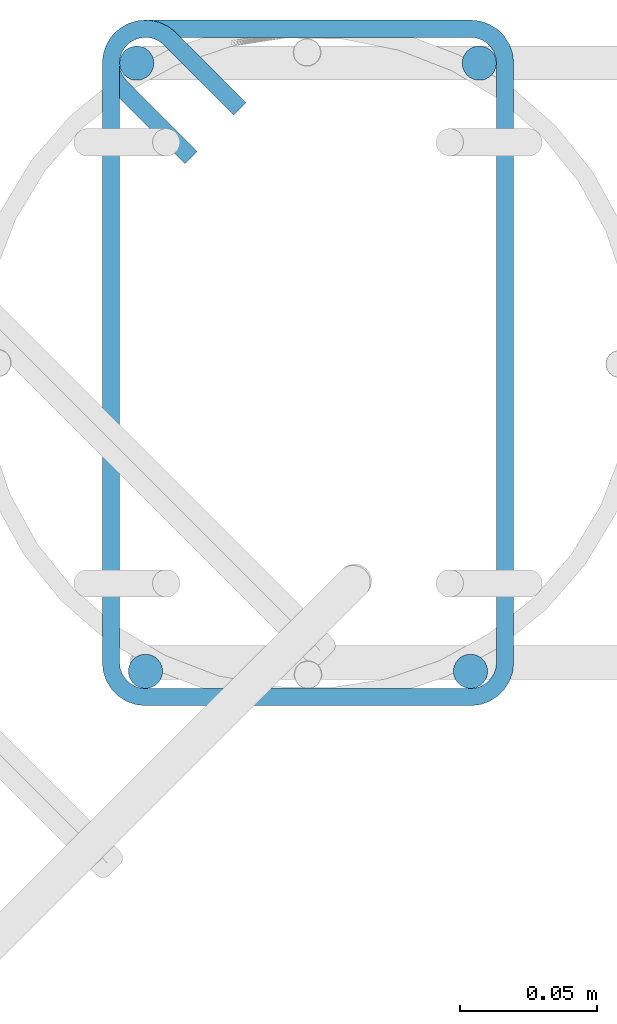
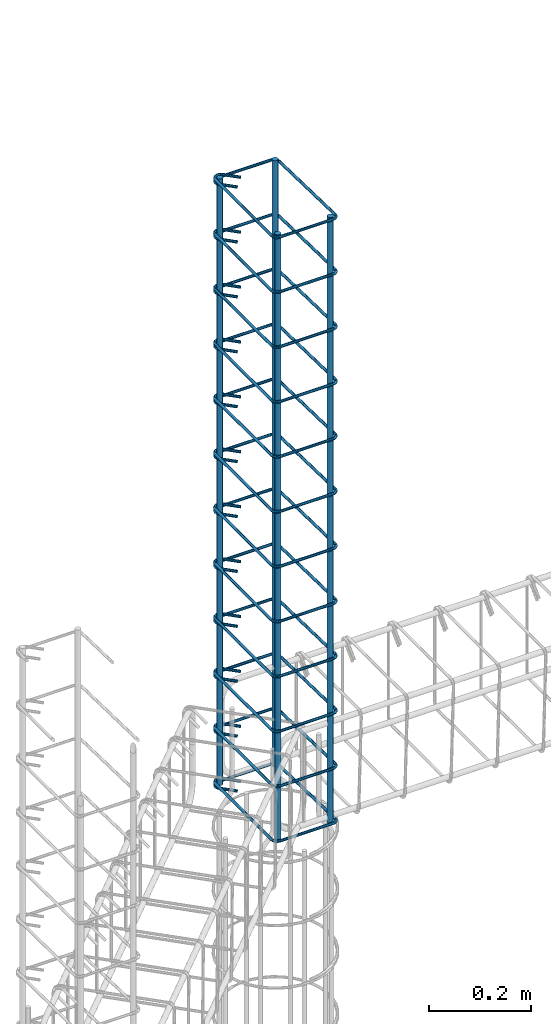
# One storey, part 1 of 14: 3 reinforcing bars.
"""IFC4 building model written with IfcOpenShell, lengths in centimetres."""

import ifcopenshell
import ifcopenshell.guid

model = None  # the IFC model being written
_history = None  # IfcOwnerHistory: only IFC2X3 demands one
_inside = {}  # id of a spatial element -> (the spatial element, [elements in it])
_under = {}  # id of a project, library or spatial element -> (it, [spatial elements below it])
_declared = {}  # id of a project -> (the project, [libraries it declares])
_typed = {}  # id of a type object -> (the type object, [elements of that type])
_made_of = {}  # id of a material, layer set ... -> (it, [elements and type objects made of it])


def new_model(schema):
    """Start an empty IFC model of exactly this schema.

    Asked for "IFC4X3", IfcOpenShell would pick the latest addendum, in which some entities
    have other attributes; the version numbers below select the first issue.
    IFC2X3 requires an IfcOwnerHistory on every rooted entity: one is made here for all.
    """
    global model, _history
    if schema == "IFC4X3":
        model = ifcopenshell.file(schema_version=(4, 3, 0, 0))
    else:
        model = ifcopenshell.file(schema=schema)
    _inside.clear()
    _under.clear()
    _declared.clear()
    _typed.clear()
    _made_of.clear()
    _history = None
    if model.schema == "IFC2X3":
        org = make("IfcOrganization", Name="unknown")
        user = make(
            "IfcPersonAndOrganization",
            ThePerson=make("IfcPerson", FamilyName="unknown"),
            TheOrganization=org,
        )
        app = make(
            "IfcApplication",
            ApplicationDeveloper=org,
            Version="unknown",
            ApplicationFullName="unknown",
            ApplicationIdentifier="unknown",
        )
        _history = make(
            "IfcOwnerHistory",
            OwningUser=user,
            OwningApplication=app,
            ChangeAction="ADDED",
            CreationDate=0,
        )
    return model


def make(cls, **values):
    """One entity of the class cls with the attributes given. An attribute that is None is left unset."""
    return model.create_entity(
        cls, **{name: value for name, value in values.items() if value is not None}
    )


def entity(cls, *values):
    """Any entity or typed value of the class cls, its attributes in the order of the schema. None: left unset."""
    e = model.create_entity(cls)
    for i, value in enumerate(values):
        if value is not None:
            e[i] = value
    return e


def rooted(cls, **values):
    """An entity with a GlobalId (a new one), such as an element, a storey or a relation."""
    return make(cls, GlobalId=ifcopenshell.guid.new(), OwnerHistory=_history, **values)


def si_unit(unit_type, name, prefix=None):
    """IfcSIUnit, for example si_unit("LENGTHUNIT", "METRE", prefix="MILLI")."""
    return make("IfcSIUnit", UnitType=unit_type, Prefix=prefix, Name=name)


def converted_unit(unit_type, name, factor, base, dimensions=None, offset=None):
    """IfcConversionBasedUnit, such as the inch: factor (a typed value) times the base unit."""
    return make(
        "IfcConversionBasedUnit"
        if offset is None
        else "IfcConversionBasedUnitWithOffset",
        ConversionOffset=offset,
        Dimensions=None
        if dimensions is None
        else entity("IfcDimensionalExponents", *dimensions),
        UnitType=unit_type,
        Name=name,
        ConversionFactor=make(
            "IfcMeasureWithUnit", ValueComponent=factor, UnitComponent=base
        ),
    )


def derived_unit(unit_type, elements):
    """IfcDerivedUnit: a product of units, each with its exponent."""
    return make(
        "IfcDerivedUnit",
        Elements=[
            make("IfcDerivedUnitElement", Unit=unit, Exponent=power)
            for unit, power in elements
        ],
        UnitType=unit_type,
    )


def assignment(units):
    """IfcUnitAssignment: the units of a project."""
    return None if units is None else make("IfcUnitAssignment", Units=units)


def point(xyz):
    """IfcCartesianPoint."""
    return None if xyz is None else make("IfcCartesianPoint", Coordinates=xyz)


def direction(xyz):
    """IfcDirection."""
    return None if xyz is None else make("IfcDirection", DirectionRatios=xyz)


def frame(location, z_axis=None, x_axis=None):
    """IfcAxis2Placement3D, a coordinate frame: its origin and axes. An axis left out is left unset."""
    return make(
        "IfcAxis2Placement3D",
        Location=point(location),
        Axis=direction(z_axis),
        RefDirection=direction(x_axis),
    )


def origin():
    """The frame at (0, 0, 0) with its axes left unset."""
    return frame((0.0, 0.0, 0.0))


def place(relative_to, where):
    """IfcLocalPlacement: puts the frame where relative to a parent placement (None: the world)."""
    return make(
        "IfcLocalPlacement", PlacementRelTo=relative_to, RelativePlacement=where
    )


def context(
    kind, dimensions, precision=None, world=None, true_north=None, identifier=None
):
    """IfcGeometricRepresentationContext, for example the 3D "Model" context."""
    return make(
        "IfcGeometricRepresentationContext",
        ContextIdentifier=identifier,
        ContextType=kind,
        CoordinateSpaceDimension=dimensions,
        Precision=precision,
        WorldCoordinateSystem=world,
        TrueNorth=true_north,
    )


def subcontext(parent, identifier, kind, view, scale=None):
    """IfcGeometricRepresentationSubContext, for example "Body" below "Model"."""
    return make(
        "IfcGeometricRepresentationSubContext",
        ContextIdentifier=identifier,
        ContextType=kind,
        ParentContext=parent,
        TargetScale=scale,
        TargetView=view,
    )


def project(units=None, contexts=None):
    """IfcProject with its units and contexts."""
    return rooted(
        "IfcProject",
        Name="project",
        RepresentationContexts=contexts,
        UnitsInContext=assignment(units),
    )


def spatial(cls, under=None, at=None, **own):
    """A site, building, storey or space (cls), placed at a placement, below another one or the project."""
    s = rooted(cls, ObjectPlacement=at, **own)
    if under is not None:
        _under.setdefault(under.id(), (under, []))[1].append(s)
    return s


def shape(context_of_items, identifier, shape_type, items):
    """IfcShapeRepresentation: the items that make up one representation, for example the "Body"."""
    return make(
        "IfcShapeRepresentation",
        ContextOfItems=context_of_items,
        RepresentationIdentifier=identifier,
        RepresentationType=shape_type,
        Items=items,
    )


def made_of(thing, what):
    """Note that an element or type object is made of a material, layer set ...; save() writes the relation."""
    if what is not None:
        _made_of.setdefault(what.id(), (what, []))[1].append(thing)
    return thing


def type_object(cls, material=None, **own):
    """A type object (cls), such as IfcWallType, which elements share."""
    return made_of(rooted(cls, **own), material)


def element(
    cls,
    number,
    at=None,
    inside=None,
    cuts=None,
    type_object=None,
    material=None,
    context=None,
    identifier="Body",
    shape_type=None,
    held_by="IfcProductDefinitionShape",
    body=None,
    shapes=None,
    **own,
):
    """One element of the class cls, such as IfcWall. Its Tag is "e" and its number.

    at: its placement. inside: the storey or other place that contains it. cuts: it is an
    opening in that element (IfcRelVoidsElement). A single representation is given by context,
    identifier, shape_type and body (its items); several are given by shapes. held_by: the class
    of the entity that holds the representations. save() writes the other relations.
    """
    e = rooted(cls, Tag="e%d" % number, ObjectPlacement=at, **own)
    if body is not None:
        shapes = [shape(context, identifier, shape_type, body)]
    if shapes is not None:
        e.Representation = make(held_by, Representations=shapes)
    if inside is not None:
        _inside.setdefault(inside.id(), (inside, []))[1].append(e)
    if cuts is not None:
        rooted(
            "IfcRelVoidsElement", RelatingBuildingElement=cuts, RelatedOpeningElement=e
        )
    if type_object is not None:
        _typed.setdefault(type_object.id(), (type_object, []))[1].append(e)
    return made_of(e, material)


def aggregate(whole, parts):
    """IfcRelAggregates: a whole, such as a stair, and the parts it consists of."""
    return rooted("IfcRelAggregates", RelatingObject=whole, RelatedObjects=parts)


def save(model, path):
    """Write the relations noted so far, then the file.

    IfcRelAggregates (storeys below a building ...), IfcRelContainedInSpatialStructure (elements
    in a storey), IfcRelDefinesByType, IfcRelAssociatesMaterial and IfcRelDeclares: one each for
    every whole, place, type object, material and project.
    """
    for whole, parts in _under.values():
        aggregate(whole, parts)
    for where, things in _inside.values():
        rooted(
            "IfcRelContainedInSpatialStructure",
            RelatedElements=things,
            RelatingStructure=where,
        )
    for kind, things in _typed.values():
        rooted("IfcRelDefinesByType", RelatedObjects=things, RelatingType=kind)
    for what, things in _made_of.values():
        rooted("IfcRelAssociatesMaterial", RelatedObjects=things, RelatingMaterial=what)
    for by, libraries in _declared.values():
        rooted("IfcRelDeclares", RelatingContext=by, RelatedDefinitions=libraries)
    model.write(path)


model = new_model("IFC4")

# Units and contexts
model_context = context("Model", 3, precision=0.001, world=origin(), true_north=direction((6.123233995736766e-17, 1.0)))
body_context = subcontext(model_context, "Body", "Model", "MODEL_VIEW")
ifc_project = project(units=[si_unit("LENGTHUNIT", "METRE", prefix="CENTI"), si_unit("AREAUNIT", "SQUARE_METRE"), converted_unit("PLANEANGLEUNIT", "DEGREE", entity("IfcPlaneAngleMeasure", 0.017453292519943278), si_unit("PLANEANGLEUNIT", "RADIAN"), dimensions=[0, 0, 0, 0, 0, 0, 0]), si_unit("VOLUMEUNIT", "CUBIC_METRE"), derived_unit("THERMALTRANSMITTANCEUNIT", [(si_unit("MASSUNIT", "GRAM", prefix="KILO"), 1), (si_unit("THERMODYNAMICTEMPERATUREUNIT", "KELVIN"), -1), (si_unit("TIMEUNIT", "SECOND"), -3)])], contexts=[model_context])

# Site, building, storey
site_placement = place(None, origin())
site = spatial("IfcSite", under=ifc_project, at=site_placement, Name="Default", CompositionType="ELEMENT")
building_placement = place(site_placement, origin())
building = spatial("IfcBuilding", under=site, at=building_placement, Name="CONTENÇÃO DE ARQUIBANCADA - GINÁSIO PADRÃO", CompositionType="ELEMENT")
storey_placement = place(building_placement, frame((0.0, 0.0, -100.0)))
storey = spatial("IfcBuildingStorey", under=building, at=storey_placement, Name="Nível 3", CompositionType="ELEMENT", Elevation=-100.0)

# Reinforcing bars
reinforcing_bar_type_1 = type_object("IfcReinforcingBarType", Name="Barra do vergalhão:12.5 CA-50", PredefinedType="NOTDEFINED")
reinforcing_bar_1_placement = place(storey_placement, origin())
element("IfcReinforcingBar", 1, at=reinforcing_bar_1_placement, inside=storey, type_object=reinforcing_bar_type_1, Name="Barra do vergalhão:12.5 CA-50 : Forma 01", ObjectType="Barra do vergalhão:12.5 CA-50", context=body_context, shape_type="AdvancedSweptSolid", body=[
    entity("IfcSweptDiskSolid", entity("IfcIndexedPolyCurve", entity("IfcCartesianPointList3D", [[20.700316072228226, 259.9991752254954, 72.5], [20.700316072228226, 259.9991752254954, 217.5]]), None, False), 0.625, None, 0.0, 1.0),
    entity("IfcSweptDiskSolid", entity("IfcIndexedPolyCurve", entity("IfcCartesianPointList3D", [[8.210316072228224, 259.9991752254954, 72.5], [8.210316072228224, 259.9991752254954, 217.5]]), None, False), 0.625, None, 0.0, 1.0),
])
reinforcing_bar_2_placement = place(storey_placement, origin())
element("IfcReinforcingBar", 2, at=reinforcing_bar_2_placement, inside=storey, type_object=reinforcing_bar_type_1, Name="Barra do vergalhão:12.5 CA-50 : Forma 01", ObjectType="Barra do vergalhão:12.5 CA-50", context=body_context, shape_type="AdvancedSweptSolid", body=[
    entity("IfcSweptDiskSolid", entity("IfcIndexedPolyCurve", entity("IfcCartesianPointList3D", [[8.530316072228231, 237.82917522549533, 72.5], [8.530316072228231, 237.82917522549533, 217.5]]), None, False), 0.625, None, 0.0, 1.0),
    entity("IfcSweptDiskSolid", entity("IfcIndexedPolyCurve", entity("IfcCartesianPointList3D", [[20.38031607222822, 237.82917522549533, 72.5], [20.38031607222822, 237.82917522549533, 217.5]]), None, False), 0.625, None, 0.0, 1.0),
])
reinforcing_bar_type_2 = type_object("IfcReinforcingBarType", Name="Barra do vergalhão:6.3 CA-50", PredefinedType="NOTDEFINED")
reinforcing_bar_3_placement = place(storey_placement, origin())
element("IfcReinforcingBar", 3, at=reinforcing_bar_3_placement, inside=storey, type_object=reinforcing_bar_type_2, Name="Barra do vergalhão:6.3 CA-50 : Forma 22", ObjectType="Barra do vergalhão:6.3 CA-50", context=body_context, shape_type="AdvancedSweptSolid", body=[
    entity("IfcSweptDiskSolid", entity("IfcIndexedPolyCurve", entity("IfcCartesianPointList3D", [[11.971235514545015, 258.3401648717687, 72.815], [9.421270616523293, 260.8901297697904, 72.815], [8.048134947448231, 261.16326343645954, 72.815], [7.270316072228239, 259.9991752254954, 72.815], [7.27031607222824, 238.14917522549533, 72.815], [7.6393615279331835, 237.2582206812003, 72.815], [8.530316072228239, 236.88917522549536, 72.815], [20.380316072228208, 236.88917522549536, 72.815], [21.271270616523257, 237.25809742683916, 72.80546282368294], [21.640316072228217, 238.148754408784, 72.78243804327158], [21.640316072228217, 259.99959604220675, 72.21756195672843], [21.27127061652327, 260.89025302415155, 72.19453717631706], [20.38031607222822, 261.25917522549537, 72.185], [8.530316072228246, 261.2591752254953, 72.185], [7.3662278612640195, 260.48135635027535, 72.185], [7.639361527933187, 259.1082206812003, 72.185], [10.189326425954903, 256.5582557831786, 72.185]]), [entity("IfcLineIndex", [1, 2]), entity("IfcArcIndex", [2, 3, 4]), entity("IfcLineIndex", [4, 5]), entity("IfcArcIndex", [5, 6, 7]), entity("IfcLineIndex", [7, 8]), entity("IfcArcIndex", [8, 9, 10]), entity("IfcLineIndex", [10, 11]), entity("IfcArcIndex", [11, 12, 13]), entity("IfcLineIndex", [13, 14]), entity("IfcArcIndex", [14, 15, 16]), entity("IfcLineIndex", [16, 17])], False), 0.31499999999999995, None, 0.0, 546.0000000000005),
    entity("IfcSweptDiskSolid", entity("IfcIndexedPolyCurve", entity("IfcCartesianPointList3D", [[11.971235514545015, 258.3401648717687, 85.93954545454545], [9.421270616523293, 260.8901297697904, 85.93954545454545], [8.048134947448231, 261.16326343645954, 85.93954545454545], [7.270316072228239, 259.9991752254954, 85.93954545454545], [7.27031607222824, 238.14917522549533, 85.93954545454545], [7.6393615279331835, 237.2582206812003, 85.93954545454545], [8.530316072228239, 236.88917522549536, 85.93954545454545], [20.380316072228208, 236.88917522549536, 85.93954545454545], [21.271270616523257, 237.25809742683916, 85.93000827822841], [21.640316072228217, 238.148754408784, 85.90698349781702], [21.640316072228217, 259.99959604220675, 85.34210741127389], [21.27127061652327, 260.89025302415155, 85.31908263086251], [20.38031607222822, 261.25917522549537, 85.30954545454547], [8.530316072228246, 261.2591752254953, 85.30954545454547], [7.3662278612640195, 260.48135635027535, 85.30954545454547], [7.639361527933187, 259.1082206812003, 85.30954545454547], [10.189326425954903, 256.5582557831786, 85.30954545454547]]), [entity("IfcLineIndex", [1, 2]), entity("IfcArcIndex", [2, 3, 4]), entity("IfcLineIndex", [4, 5]), entity("IfcArcIndex", [5, 6, 7]), entity("IfcLineIndex", [7, 8]), entity("IfcArcIndex", [8, 9, 10]), entity("IfcLineIndex", [10, 11]), entity("IfcArcIndex", [11, 12, 13]), entity("IfcLineIndex", [13, 14]), entity("IfcArcIndex", [14, 15, 16]), entity("IfcLineIndex", [16, 17])], False), 0.31499999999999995, None, 0.0, 546.0000000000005),
    entity("IfcSweptDiskSolid", entity("IfcIndexedPolyCurve", entity("IfcCartesianPointList3D", [[11.971235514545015, 258.3401648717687, 99.06409090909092], [9.421270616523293, 260.8901297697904, 99.06409090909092], [8.048134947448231, 261.16326343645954, 99.06409090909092], [7.270316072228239, 259.9991752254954, 99.06409090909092], [7.27031607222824, 238.14917522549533, 99.06409090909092], [7.6393615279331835, 237.2582206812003, 99.06409090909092], [8.530316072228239, 236.88917522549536, 99.06409090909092], [20.380316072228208, 236.88917522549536, 99.06409090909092], [21.271270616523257, 237.25809742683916, 99.05455373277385], [21.640316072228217, 238.148754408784, 99.03152895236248], [21.640316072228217, 259.99959604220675, 98.46665286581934], [21.27127061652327, 260.89025302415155, 98.44362808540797], [20.38031607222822, 261.25917522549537, 98.43409090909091], [8.530316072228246, 261.2591752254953, 98.43409090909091], [7.3662278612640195, 260.48135635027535, 98.43409090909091], [7.639361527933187, 259.1082206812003, 98.43409090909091], [10.189326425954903, 256.5582557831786, 98.43409090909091]]), [entity("IfcLineIndex", [1, 2]), entity("IfcArcIndex", [2, 3, 4]), entity("IfcLineIndex", [4, 5]), entity("IfcArcIndex", [5, 6, 7]), entity("IfcLineIndex", [7, 8]), entity("IfcArcIndex", [8, 9, 10]), entity("IfcLineIndex", [10, 11]), entity("IfcArcIndex", [11, 12, 13]), entity("IfcLineIndex", [13, 14]), entity("IfcArcIndex", [14, 15, 16]), entity("IfcLineIndex", [16, 17])], False), 0.31499999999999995, None, 0.0, 546.0000000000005),
    entity("IfcSweptDiskSolid", entity("IfcIndexedPolyCurve", entity("IfcCartesianPointList3D", [[11.971235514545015, 258.3401648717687, 112.18863636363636], [9.421270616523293, 260.8901297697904, 112.18863636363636], [8.048134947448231, 261.16326343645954, 112.18863636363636], [7.270316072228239, 259.9991752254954, 112.18863636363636], [7.27031607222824, 238.14917522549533, 112.18863636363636], [7.6393615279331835, 237.2582206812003, 112.18863636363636], [8.530316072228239, 236.88917522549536, 112.18863636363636], [20.380316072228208, 236.88917522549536, 112.18863636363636], [21.271270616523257, 237.25809742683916, 112.17909918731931], [21.640316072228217, 238.148754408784, 112.15607440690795], [21.640316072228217, 259.99959604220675, 111.5911983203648], [21.27127061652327, 260.89025302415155, 111.56817353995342], [20.38031607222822, 261.25917522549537, 111.55863636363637], [8.530316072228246, 261.2591752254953, 111.55863636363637], [7.3662278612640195, 260.48135635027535, 111.55863636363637], [7.639361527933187, 259.1082206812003, 111.55863636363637], [10.189326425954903, 256.5582557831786, 111.55863636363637]]), [entity("IfcLineIndex", [1, 2]), entity("IfcArcIndex", [2, 3, 4]), entity("IfcLineIndex", [4, 5]), entity("IfcArcIndex", [5, 6, 7]), entity("IfcLineIndex", [7, 8]), entity("IfcArcIndex", [8, 9, 10]), entity("IfcLineIndex", [10, 11]), entity("IfcArcIndex", [11, 12, 13]), entity("IfcLineIndex", [13, 14]), entity("IfcArcIndex", [14, 15, 16]), entity("IfcLineIndex", [16, 17])], False), 0.31499999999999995, None, 0.0, 546.0000000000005),
    entity("IfcSweptDiskSolid", entity("IfcIndexedPolyCurve", entity("IfcCartesianPointList3D", [[11.971235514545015, 258.3401648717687, 125.31318181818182], [9.421270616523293, 260.8901297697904, 125.31318181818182], [8.048134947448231, 261.16326343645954, 125.31318181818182], [7.270316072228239, 259.9991752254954, 125.31318181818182], [7.27031607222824, 238.14917522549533, 125.31318181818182], [7.6393615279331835, 237.2582206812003, 125.31318181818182], [8.530316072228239, 236.88917522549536, 125.31318181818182], [20.380316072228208, 236.88917522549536, 125.31318181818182], [21.271270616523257, 237.25809742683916, 125.30364464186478], [21.640316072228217, 238.148754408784, 125.28061986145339], [21.640316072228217, 259.99959604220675, 124.71574377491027], [21.27127061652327, 260.89025302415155, 124.69271899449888], [20.38031607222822, 261.25917522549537, 124.68318181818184], [8.530316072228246, 261.2591752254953, 124.68318181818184], [7.3662278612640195, 260.48135635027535, 124.68318181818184], [7.639361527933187, 259.1082206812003, 124.68318181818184], [10.189326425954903, 256.5582557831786, 124.68318181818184]]), [entity("IfcLineIndex", [1, 2]), entity("IfcArcIndex", [2, 3, 4]), entity("IfcLineIndex", [4, 5]), entity("IfcArcIndex", [5, 6, 7]), entity("IfcLineIndex", [7, 8]), entity("IfcArcIndex", [8, 9, 10]), entity("IfcLineIndex", [10, 11]), entity("IfcArcIndex", [11, 12, 13]), entity("IfcLineIndex", [13, 14]), entity("IfcArcIndex", [14, 15, 16]), entity("IfcLineIndex", [16, 17])], False), 0.31499999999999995, None, 0.0, 546.0000000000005),
    entity("IfcSweptDiskSolid", entity("IfcIndexedPolyCurve", entity("IfcCartesianPointList3D", [[11.971235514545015, 258.3401648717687, 138.43772727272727], [9.421270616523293, 260.8901297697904, 138.43772727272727], [8.048134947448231, 261.16326343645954, 138.43772727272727], [7.270316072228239, 259.9991752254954, 138.43772727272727], [7.27031607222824, 238.14917522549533, 138.43772727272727], [7.6393615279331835, 237.2582206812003, 138.43772727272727], [8.530316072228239, 236.88917522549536, 138.43772727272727], [20.380316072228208, 236.88917522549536, 138.43772727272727], [21.271270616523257, 237.25809742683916, 138.42819009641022], [21.640316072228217, 238.148754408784, 138.40516531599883], [21.640316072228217, 259.99959604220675, 137.84028922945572], [21.27127061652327, 260.89025302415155, 137.81726444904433], [20.38031607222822, 261.25917522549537, 137.80772727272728], [8.530316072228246, 261.2591752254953, 137.80772727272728], [7.3662278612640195, 260.48135635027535, 137.80772727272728], [7.639361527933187, 259.1082206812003, 137.80772727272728], [10.189326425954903, 256.5582557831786, 137.80772727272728]]), [entity("IfcLineIndex", [1, 2]), entity("IfcArcIndex", [2, 3, 4]), entity("IfcLineIndex", [4, 5]), entity("IfcArcIndex", [5, 6, 7]), entity("IfcLineIndex", [7, 8]), entity("IfcArcIndex", [8, 9, 10]), entity("IfcLineIndex", [10, 11]), entity("IfcArcIndex", [11, 12, 13]), entity("IfcLineIndex", [13, 14]), entity("IfcArcIndex", [14, 15, 16]), entity("IfcLineIndex", [16, 17])], False), 0.31499999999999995, None, 0.0, 546.0000000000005),
    entity("IfcSweptDiskSolid", entity("IfcIndexedPolyCurve", entity("IfcCartesianPointList3D", [[11.971235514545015, 258.3401648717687, 151.56227272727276], [9.421270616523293, 260.8901297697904, 151.56227272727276], [8.048134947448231, 261.16326343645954, 151.56227272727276], [7.270316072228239, 259.9991752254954, 151.56227272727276], [7.27031607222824, 238.14917522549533, 151.56227272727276], [7.6393615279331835, 237.2582206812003, 151.56227272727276], [8.530316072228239, 236.88917522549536, 151.56227272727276], [20.380316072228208, 236.88917522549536, 151.56227272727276], [21.271270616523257, 237.25809742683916, 151.55273555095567], [21.640316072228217, 238.148754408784, 151.5297107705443], [21.640316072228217, 259.99959604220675, 150.96483468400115], [21.27127061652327, 260.89025302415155, 150.94180990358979], [20.38031607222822, 261.25917522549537, 150.93227272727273], [8.530316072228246, 261.2591752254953, 150.93227272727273], [7.3662278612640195, 260.48135635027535, 150.93227272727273], [7.639361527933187, 259.1082206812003, 150.93227272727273], [10.189326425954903, 256.5582557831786, 150.93227272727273]]), [entity("IfcLineIndex", [1, 2]), entity("IfcArcIndex", [2, 3, 4]), entity("IfcLineIndex", [4, 5]), entity("IfcArcIndex", [5, 6, 7]), entity("IfcLineIndex", [7, 8]), entity("IfcArcIndex", [8, 9, 10]), entity("IfcLineIndex", [10, 11]), entity("IfcArcIndex", [11, 12, 13]), entity("IfcLineIndex", [13, 14]), entity("IfcArcIndex", [14, 15, 16]), entity("IfcLineIndex", [16, 17])], False), 0.31499999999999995, None, 0.0, 546.0000000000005),
    entity("IfcSweptDiskSolid", entity("IfcIndexedPolyCurve", entity("IfcCartesianPointList3D", [[11.971235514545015, 258.3401648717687, 164.68681818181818], [9.421270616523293, 260.8901297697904, 164.68681818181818], [8.048134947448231, 261.16326343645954, 164.68681818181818], [7.270316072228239, 259.9991752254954, 164.68681818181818], [7.27031607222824, 238.14917522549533, 164.68681818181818], [7.6393615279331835, 237.2582206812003, 164.68681818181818], [8.530316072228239, 236.88917522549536, 164.68681818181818], [20.380316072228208, 236.88917522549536, 164.68681818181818], [21.271270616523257, 237.25809742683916, 164.67728100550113], [21.640316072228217, 238.148754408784, 164.65425622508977], [21.640316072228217, 259.99959604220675, 164.0893801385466], [21.27127061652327, 260.89025302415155, 164.06635535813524], [20.38031607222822, 261.25917522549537, 164.0568181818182], [8.530316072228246, 261.2591752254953, 164.0568181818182], [7.3662278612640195, 260.48135635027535, 164.0568181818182], [7.639361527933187, 259.1082206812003, 164.0568181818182], [10.189326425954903, 256.5582557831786, 164.0568181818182]]), [entity("IfcLineIndex", [1, 2]), entity("IfcArcIndex", [2, 3, 4]), entity("IfcLineIndex", [4, 5]), entity("IfcArcIndex", [5, 6, 7]), entity("IfcLineIndex", [7, 8]), entity("IfcArcIndex", [8, 9, 10]), entity("IfcLineIndex", [10, 11]), entity("IfcArcIndex", [11, 12, 13]), entity("IfcLineIndex", [13, 14]), entity("IfcArcIndex", [14, 15, 16]), entity("IfcLineIndex", [16, 17])], False), 0.31499999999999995, None, 0.0, 546.0000000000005),
    entity("IfcSweptDiskSolid", entity("IfcIndexedPolyCurve", entity("IfcCartesianPointList3D", [[11.971235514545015, 258.3401648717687, 177.81136363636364], [9.421270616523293, 260.8901297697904, 177.81136363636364], [8.048134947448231, 261.16326343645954, 177.81136363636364], [7.270316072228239, 259.9991752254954, 177.81136363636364], [7.27031607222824, 238.14917522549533, 177.81136363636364], [7.6393615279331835, 237.2582206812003, 177.81136363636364], [8.530316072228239, 236.88917522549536, 177.81136363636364], [20.380316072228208, 236.88917522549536, 177.81136363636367], [21.271270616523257, 237.25809742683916, 177.8018264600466], [21.640316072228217, 238.148754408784, 177.77880167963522], [21.640316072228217, 259.99959604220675, 177.21392559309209], [21.27127061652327, 260.89025302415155, 177.1909008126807], [20.38031607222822, 261.25917522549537, 177.18136363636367], [8.530316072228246, 261.2591752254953, 177.18136363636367], [7.3662278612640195, 260.48135635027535, 177.18136363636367], [7.639361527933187, 259.1082206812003, 177.18136363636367], [10.189326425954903, 256.5582557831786, 177.18136363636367]]), [entity("IfcLineIndex", [1, 2]), entity("IfcArcIndex", [2, 3, 4]), entity("IfcLineIndex", [4, 5]), entity("IfcArcIndex", [5, 6, 7]), entity("IfcLineIndex", [7, 8]), entity("IfcArcIndex", [8, 9, 10]), entity("IfcLineIndex", [10, 11]), entity("IfcArcIndex", [11, 12, 13]), entity("IfcLineIndex", [13, 14]), entity("IfcArcIndex", [14, 15, 16]), entity("IfcLineIndex", [16, 17])], False), 0.31499999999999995, None, 0.0, 546.0000000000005),
    entity("IfcSweptDiskSolid", entity("IfcIndexedPolyCurve", entity("IfcCartesianPointList3D", [[11.971235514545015, 258.3401648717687, 190.93590909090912], [9.421270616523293, 260.8901297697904, 190.93590909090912], [8.048134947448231, 261.16326343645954, 190.93590909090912], [7.270316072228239, 259.9991752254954, 190.93590909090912], [7.27031607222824, 238.14917522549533, 190.93590909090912], [7.6393615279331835, 237.2582206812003, 190.93590909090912], [8.530316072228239, 236.88917522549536, 190.93590909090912], [20.380316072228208, 236.88917522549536, 190.93590909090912], [21.271270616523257, 237.25809742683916, 190.92637191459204], [21.640316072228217, 238.148754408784, 190.90334713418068], [21.640316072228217, 259.99959604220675, 190.33847104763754], [21.27127061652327, 260.89025302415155, 190.31544626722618], [20.38031607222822, 261.25917522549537, 190.30590909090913], [8.530316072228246, 261.2591752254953, 190.30590909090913], [7.3662278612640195, 260.48135635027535, 190.30590909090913], [7.639361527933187, 259.1082206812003, 190.30590909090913], [10.189326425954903, 256.5582557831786, 190.30590909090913]]), [entity("IfcLineIndex", [1, 2]), entity("IfcArcIndex", [2, 3, 4]), entity("IfcLineIndex", [4, 5]), entity("IfcArcIndex", [5, 6, 7]), entity("IfcLineIndex", [7, 8]), entity("IfcArcIndex", [8, 9, 10]), entity("IfcLineIndex", [10, 11]), entity("IfcArcIndex", [11, 12, 13]), entity("IfcLineIndex", [13, 14]), entity("IfcArcIndex", [14, 15, 16]), entity("IfcLineIndex", [16, 17])], False), 0.31499999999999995, None, 0.0, 546.0000000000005),
    entity("IfcSweptDiskSolid", entity("IfcIndexedPolyCurve", entity("IfcCartesianPointList3D", [[11.971235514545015, 258.3401648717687, 204.06045454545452], [9.421270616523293, 260.8901297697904, 204.06045454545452], [8.048134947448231, 261.16326343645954, 204.06045454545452], [7.270316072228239, 259.9991752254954, 204.06045454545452], [7.27031607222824, 238.14917522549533, 204.06045454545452], [7.6393615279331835, 237.2582206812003, 204.06045454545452], [8.530316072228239, 236.88917522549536, 204.06045454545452], [20.380316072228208, 236.88917522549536, 204.06045454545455], [21.271270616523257, 237.25809742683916, 204.0509173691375], [21.640316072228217, 238.148754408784, 204.02789258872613], [21.640316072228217, 259.99959604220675, 203.46301650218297], [21.27127061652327, 260.89025302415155, 203.43999172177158], [20.38031607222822, 261.25917522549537, 203.43045454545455], [8.530316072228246, 261.2591752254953, 203.43045454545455], [7.3662278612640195, 260.48135635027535, 203.43045454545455], [7.639361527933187, 259.1082206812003, 203.43045454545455], [10.189326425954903, 256.5582557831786, 203.43045454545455]]), [entity("IfcLineIndex", [1, 2]), entity("IfcArcIndex", [2, 3, 4]), entity("IfcLineIndex", [4, 5]), entity("IfcArcIndex", [5, 6, 7]), entity("IfcLineIndex", [7, 8]), entity("IfcArcIndex", [8, 9, 10]), entity("IfcLineIndex", [10, 11]), entity("IfcArcIndex", [11, 12, 13]), entity("IfcLineIndex", [13, 14]), entity("IfcArcIndex", [14, 15, 16]), entity("IfcLineIndex", [16, 17])], False), 0.31499999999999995, None, 0.0, 546.0000000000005),
    entity("IfcSweptDiskSolid", entity("IfcIndexedPolyCurve", entity("IfcCartesianPointList3D", [[11.971235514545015, 258.3401648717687, 217.185], [9.421270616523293, 260.8901297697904, 217.185], [8.048134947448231, 261.16326343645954, 217.185], [7.270316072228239, 259.9991752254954, 217.185], [7.27031607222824, 238.14917522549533, 217.185], [7.6393615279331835, 237.2582206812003, 217.185], [8.530316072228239, 236.88917522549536, 217.185], [20.380316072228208, 236.88917522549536, 217.18500000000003], [21.271270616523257, 237.25809742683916, 217.17546282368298], [21.640316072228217, 238.148754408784, 217.1524380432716], [21.640316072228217, 259.99959604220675, 216.58756195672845], [21.27127061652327, 260.89025302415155, 216.56453717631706], [20.38031607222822, 261.25917522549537, 216.55500000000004], [8.530316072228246, 261.2591752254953, 216.55500000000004], [7.3662278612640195, 260.48135635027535, 216.55500000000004], [7.639361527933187, 259.1082206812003, 216.55500000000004], [10.189326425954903, 256.5582557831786, 216.55500000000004]]), [entity("IfcLineIndex", [1, 2]), entity("IfcArcIndex", [2, 3, 4]), entity("IfcLineIndex", [4, 5]), entity("IfcArcIndex", [5, 6, 7]), entity("IfcLineIndex", [7, 8]), entity("IfcArcIndex", [8, 9, 10]), entity("IfcLineIndex", [10, 11]), entity("IfcArcIndex", [11, 12, 13]), entity("IfcLineIndex", [13, 14]), entity("IfcArcIndex", [14, 15, 16]), entity("IfcLineIndex", [16, 17])], False), 0.31499999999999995, None, 0.0, 546.0000000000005),
])

save(model, "model.ifc")
